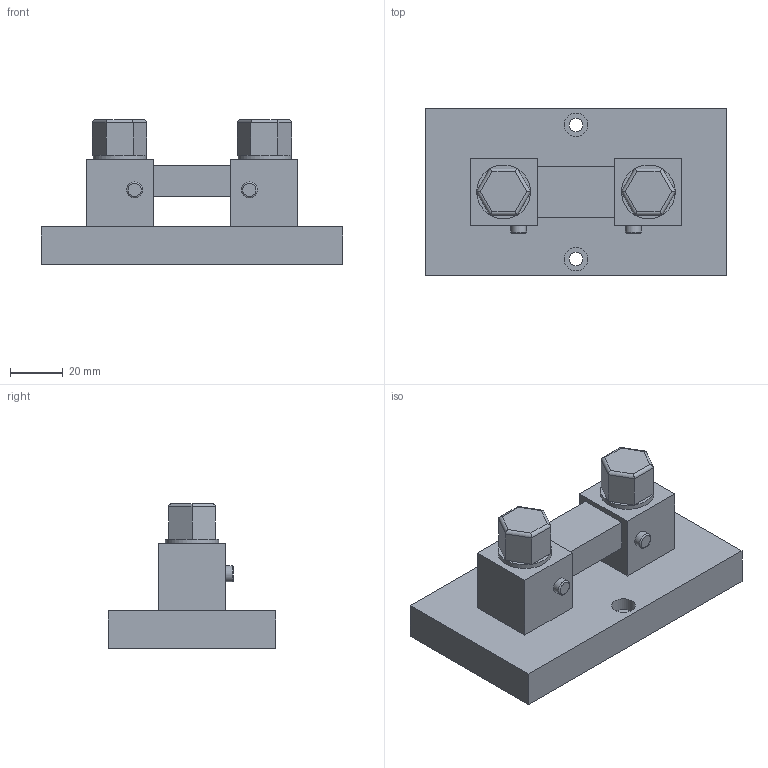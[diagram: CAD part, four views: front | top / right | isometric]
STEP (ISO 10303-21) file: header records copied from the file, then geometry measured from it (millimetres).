
FILE_DESCRIPTION(/* description */ ('Alibre Inc.'),/* implementation_level */ '2;1');
FILE_NAME(/* name */ 'export0',/* time_stamp */ '2015-10-06T08:40:14+02:00',/* author */ (''),/* organization */ (''),/* preprocessor_version */ 'ST-DEVELOPER v14',/* originating_system */ 'Alibre',/* authorisation */ '');
FILE_SCHEMA (('AUTOMOTIVE_DESIGN'));
Length unit declared in the file: centimetre
Bounding box: 114.3 x 63.5 x 54.86 mm (x, y, z)
Volume: 150521.3 mm3; surface area: 28536.5 mm2
Topology: 1 solids, 1 shells, 84 faces, 184 edges, 110 vertices
Faces by surface type: plane 62, cylinder 20, torus 2
Full cylindrical faces by diameter (mm): 5.08 x2, 6 x2, 8.89 x2, 20.32 x2
Entity records: 1913 total; most frequent: ORIENTED_EDGE 344, CARTESIAN_POINT 310, DIRECTION 252, EDGE_CURVE 172, VERTEX_POINT 108, VECTOR 108, LINE 108, EDGE_LOOP 108
